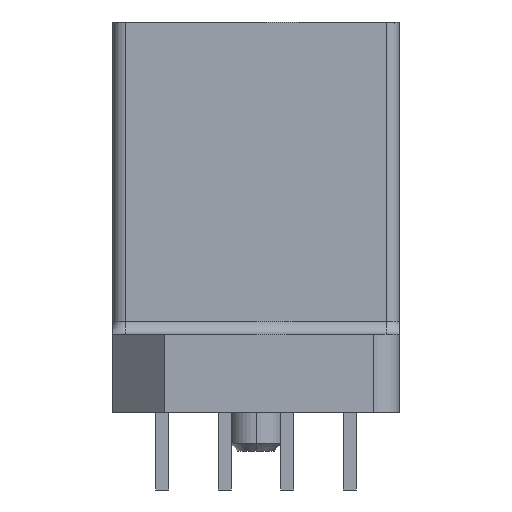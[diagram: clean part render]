
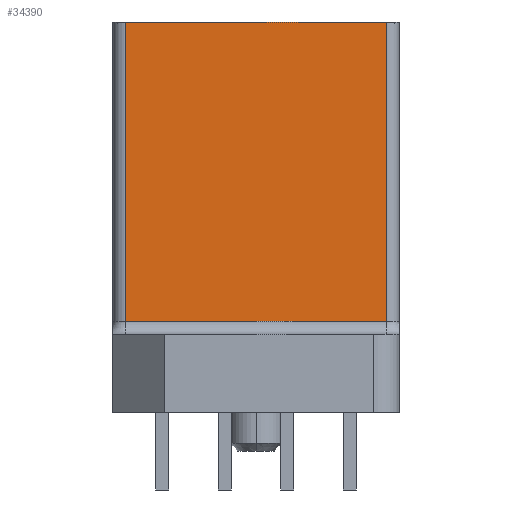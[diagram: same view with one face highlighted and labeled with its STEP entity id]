
A CAD part, left-side view. The second image highlights one B-rep face of the part: STEP entity #34390.
In plain terms, the highlighted planar face has unit normal (-1, 0, 0) as drawn and (1, 0, 0) by its records, which use the part's own axes.
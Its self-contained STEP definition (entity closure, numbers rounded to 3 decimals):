
#1800=CARTESIAN_POINT('',(-128.624,105.356,-13.8));
#1810=VERTEX_POINT('',#1800);
#1860=CARTESIAN_POINT('',(-128.624,115.356,-13.8));
#1870=DIRECTION('',(0.,-1.,0.));
#1880=VECTOR('',#1870,1.);
#1890=LINE('',#1860,#1880);
#1900=CARTESIAN_POINT('',(-128.624,115.356,-13.8));
#1910=VERTEX_POINT('',#1900);
#1920=EDGE_CURVE('',#1910,#1810,#1890,.T.);
#33980=CARTESIAN_POINT('',(-128.624,115.356,-2.3));
#33990=DIRECTION('',(0.,0.,-1.));
#34000=VECTOR('',#33990,1.);
#34010=LINE('',#33980,#34000);
#34020=CARTESIAN_POINT('',(-128.624,115.356,-2.3));
#34030=VERTEX_POINT('',#34020);
#34040=EDGE_CURVE('',#34030,#1910,#34010,.T.);
#34160=CARTESIAN_POINT('',(-128.624,116.706,-13.8));
#34170=DIRECTION('',(1.,0.,0.));
#34180=DIRECTION('',(0.,1.,0.));
#34190=AXIS2_PLACEMENT_3D('',#34160,#34170,#34180);
#34200=PLANE('',#34190);
#34210=CARTESIAN_POINT('',(-128.624,105.356,-2.3));
#34220=DIRECTION('',(0.,1.,0.));
#34230=VECTOR('',#34220,1.);
#34240=LINE('',#34210,#34230);
#34250=CARTESIAN_POINT('',(-128.624,105.356,-2.3));
#34260=VERTEX_POINT('',#34250);
#34270=EDGE_CURVE('',#34260,#34030,#34240,.T.);
#34280=ORIENTED_EDGE('',*,*,#34270,.F.);
#34290=ORIENTED_EDGE('',*,*,#34040,.F.);
#34300=ORIENTED_EDGE('',*,*,#1920,.F.);
#34310=CARTESIAN_POINT('',(-128.624,105.356,-13.8));
#34320=DIRECTION('',(0.,0.,1.));
#34330=VECTOR('',#34320,1.);
#34340=LINE('',#34310,#34330);
#34350=EDGE_CURVE('',#1810,#34260,#34340,.T.);
#34360=ORIENTED_EDGE('',*,*,#34350,.F.);
#34370=EDGE_LOOP('',(#34360,#34300,#34290,#34280));
#34380=FACE_OUTER_BOUND('',#34370,.T.);
#34390=ADVANCED_FACE('',(#34380),#34200,.T.);
